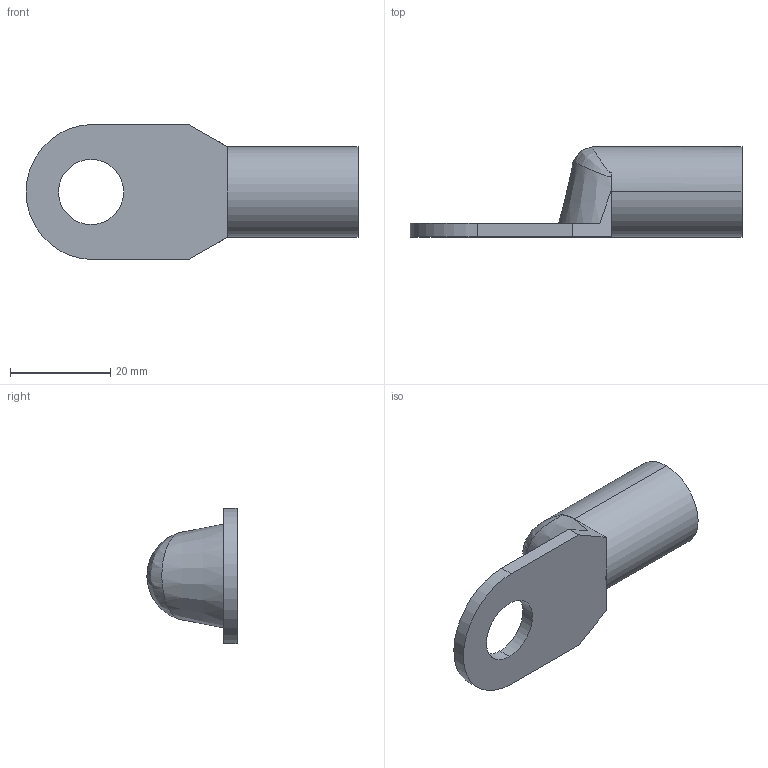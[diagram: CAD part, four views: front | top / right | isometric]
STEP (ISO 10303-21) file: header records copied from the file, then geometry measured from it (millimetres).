
FILE_DESCRIPTION (( 'STEP AP214' ), '1' );
FILE_NAME ('JG-95-12.STEP', '2020-04-24T13:04:54', ( '' ), ( '' ), 'SwSTEP 2.0', 'SolidWorks 2018', '' );
FILE_SCHEMA (( 'AUTOMOTIVE_DESIGN' ));
Length unit declared in the file: millimetre
Products named in the file (1): JG-95-12
Bounding box: 66.3 x 18 x 27 mm (x, y, z)
Volume: 5591 mm3; surface area: 5415.5 mm2
Topology: 1 solids, 1 shells, 23 faces, 53 edges, 33 vertices
Faces by surface type: plane 14, cylinder 7, cone 1, bspline 1
Entity records: 943 total; most frequent: CARTESIAN_POINT 375, DIRECTION 116, ORIENTED_EDGE 106, EDGE_CURVE 53, AXIS2_PLACEMENT_3D 44, VERTEX_POINT 33, VECTOR 28, LINE 28
